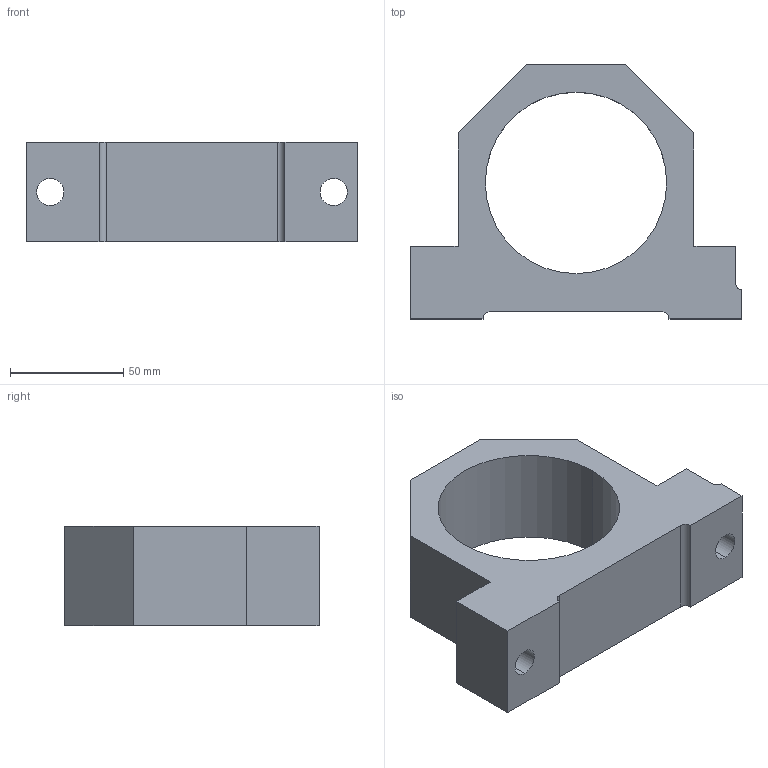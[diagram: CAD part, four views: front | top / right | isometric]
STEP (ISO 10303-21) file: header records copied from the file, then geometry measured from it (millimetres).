
FILE_DESCRIPTION (( 'STEP AP203' ), '1' );
FILE_NAME ('SLA-40.STEP', '2002-08-15T13:51:41', ( '.' ), ( '.' ), 'SwSTEP 2.0', 'SolidWorks 2001340', '' );
FILE_SCHEMA (( 'CONFIG_CONTROL_DESIGN' ));
Length unit declared in the file: millimetre
Products named in the file (1): SLA-40
Bounding box: 146 x 112 x 44 mm (x, y, z)
Volume: 290179.7 mm3; surface area: 47806.9 mm2
Topology: 1 solids, 1 shells, 24 faces, 66 edges, 44 vertices
Faces by surface type: plane 15, cylinder 9
Entity records: 857 total; most frequent: CARTESIAN_POINT 135, DIRECTION 134, ORIENTED_EDGE 132, EDGE_CURVE 66, LINE 48, VECTOR 48, VERTEX_POINT 44, AXIS2_PLACEMENT_3D 43
